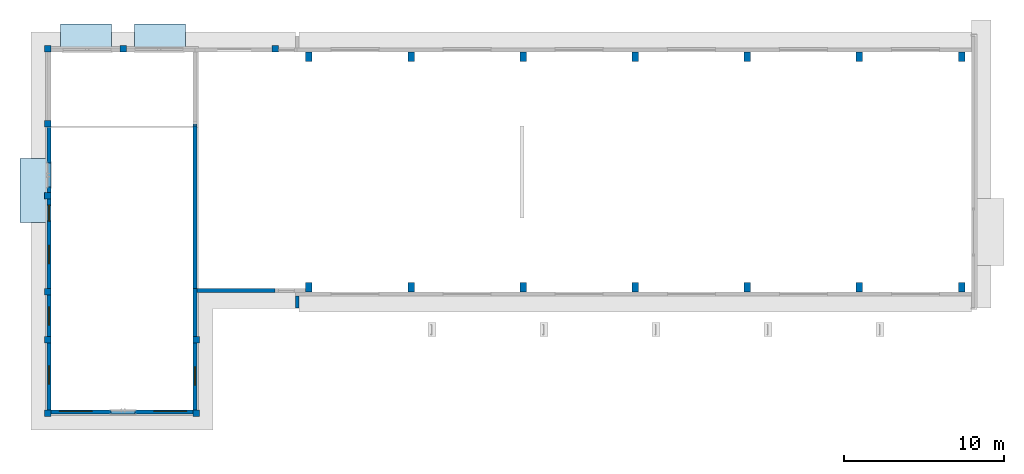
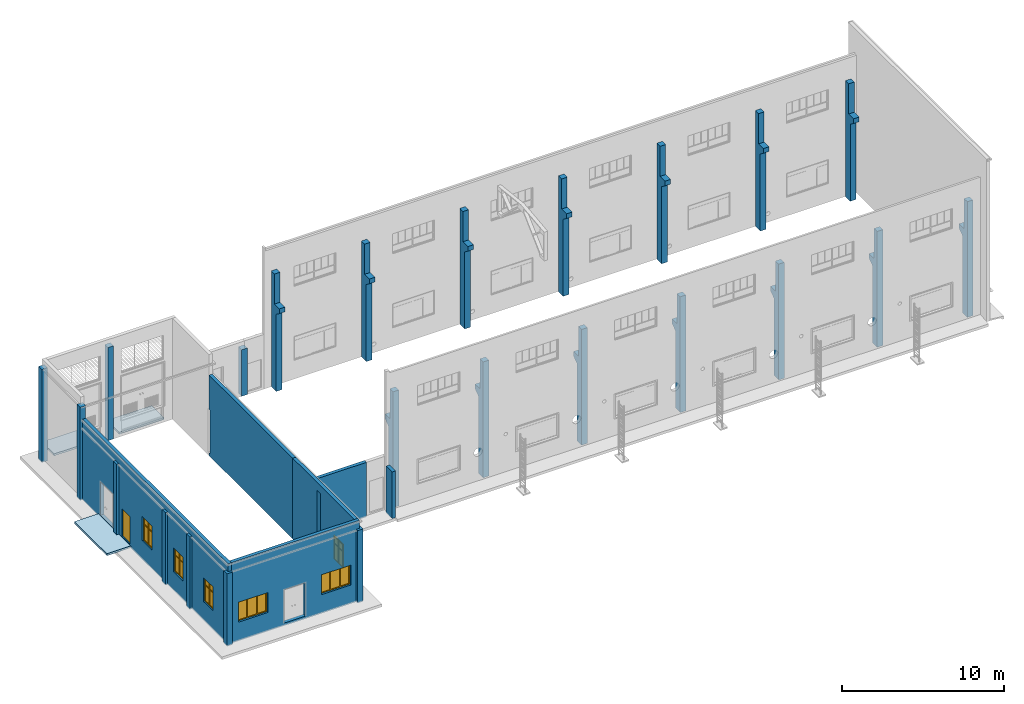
"""IFC2X3 building model written with IfcOpenShell, lengths in millimetres."""

from ifc_helpers import new_model, entity, si_unit, converted_unit, derived_unit, direction, frame, frame_2d, origin, origin_2d_with_axis, place, context, subcontext, project, spatial, polyline, rectangle, outline, extrude, clip, bounded_halfspace, faceted_brep, source, transform, mapped, material, material_list, layer, layer_set, layer_usage, type_object, type_shapes, element, fill, save


model = new_model("IFC2X3")

# Units and contexts
model_context = context("Model", 3, precision=0.01, world=origin(), true_north=direction((6.12303176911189e-17, 1.0)))
body_context = subcontext(model_context, "Body", "Model", "MODEL_VIEW")
ifc_project = project(units=[si_unit("LENGTHUNIT", "METRE", prefix="MILLI"), si_unit("AREAUNIT", "SQUARE_METRE"), si_unit("VOLUMEUNIT", "CUBIC_METRE"), converted_unit("PLANEANGLEUNIT", "DEGREE", entity("IfcRatioMeasure", 0.0174532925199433), si_unit("PLANEANGLEUNIT", "RADIAN"), dimensions=[0, 0, 0, 0, 0, 0, 0]), si_unit("MASSUNIT", "GRAM", prefix="KILO"), derived_unit("MASSDENSITYUNIT", [(si_unit("MASSUNIT", "GRAM", prefix="KILO"), 1), (si_unit("LENGTHUNIT", "METRE"), -3)]), si_unit("TIMEUNIT", "SECOND"), si_unit("FREQUENCYUNIT", "HERTZ"), si_unit("THERMODYNAMICTEMPERATUREUNIT", "DEGREE_CELSIUS"), derived_unit("THERMALTRANSMITTANCEUNIT", [(si_unit("MASSUNIT", "GRAM", prefix="KILO"), 1), (si_unit("THERMODYNAMICTEMPERATUREUNIT", "KELVIN"), -1), (si_unit("TIMEUNIT", "SECOND"), -3)]), derived_unit("VOLUMETRICFLOWRATEUNIT", [(si_unit("LENGTHUNIT", "METRE"), 3), (si_unit("TIMEUNIT", "SECOND"), -1)]), si_unit("ELECTRICCURRENTUNIT", "AMPERE"), si_unit("ELECTRICVOLTAGEUNIT", "VOLT"), si_unit("POWERUNIT", "WATT"), si_unit("FORCEUNIT", "NEWTON", prefix="KILO"), si_unit("ILLUMINANCEUNIT", "LUX"), si_unit("LUMINOUSFLUXUNIT", "LUMEN"), si_unit("LUMINOUSINTENSITYUNIT", "CANDELA"), derived_unit("USERDEFINED", [(si_unit("MASSUNIT", "GRAM", prefix="KILO"), -1), (si_unit("LENGTHUNIT", "METRE"), -2), (si_unit("TIMEUNIT", "SECOND"), 3), (si_unit("LUMINOUSFLUXUNIT", "LUMEN"), 1)]), derived_unit("LINEARVELOCITYUNIT", [(si_unit("LENGTHUNIT", "METRE"), 1), (si_unit("TIMEUNIT", "SECOND"), -1)]), si_unit("PRESSUREUNIT", "PASCAL"), derived_unit("USERDEFINED", [(si_unit("LENGTHUNIT", "METRE"), -2), (si_unit("MASSUNIT", "GRAM", prefix="KILO"), 1), (si_unit("TIMEUNIT", "SECOND"), -2)])], contexts=[model_context])

# Site, building, storey
site_placement = place(None, origin())
site = spatial("IfcSite", under=ifc_project, at=site_placement, Name="表面", CompositionType="ELEMENT")
building_placement = place(site_placement, origin())
building = spatial("IfcBuilding", under=site, at=building_placement, CompositionType="ELEMENT")
storey_1_placement = place(building_placement, frame((0.0, 0.0, -200.0)))
storey_1 = spatial("IfcBuildingStorey", under=building, at=storey_1_placement, Name="室外地坪", CompositionType="ELEMENT", Elevation=-200.0)

# Columns
ifc_material_1 = material(Name="混凝土 - 结构柱涂黑")
column_type_1 = type_object("IfcColumnType", Name="400 x 400mm", PredefinedType="COLUMN", material=ifc_material_1)
shared_shape_1 = source(origin(), body_context, "Body", "SweptSolid", [
    extrude(rectangle(XDim=400.0, YDim=400.0, at=origin_2d_with_axis()), frame((0.0, 0.0, -200.0), z_axis=(0.0, 0.0, 1.0), x_axis=(0.0, -1.0, 0.0)), (0.0, 0.0, 1.0), 5450.0),
])
type_shapes(column_type_1, [shared_shape_1])
for number, where in (
    (1, (-47728.7987814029, -6970.30259261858, 200.0)),
    (2, (-47728.7987814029, -2390.30259261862, 200.0)),
    (3, (-47728.7987814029, 609.697407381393, 200.0)),
    (4, (-47728.7987814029, 6609.69740738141, 200.0)),
):
    element("IfcColumn", number, at=place(storey_1_placement, frame(where)), inside=storey_1, type_object=column_type_1, material=ifc_material_1, Name="M_矩形-结构柱:400 x 400mm", ObjectType="400 x 400mm", context=body_context, shape_type="MappedRepresentation", body=[
        mapped(shared_shape_1, transform((0.0, 0.0, 0.0), scale=1.0)),
    ])
column_type_2 = type_object("IfcColumnType", Name="400 x 400mm", PredefinedType="COLUMN", material=ifc_material_1)
shared_shape_2 = source(origin(), body_context, "Body", "SweptSolid", [
    extrude(rectangle(XDim=400.0, YDim=400.0, at=origin_2d_with_axis()), frame((0.0, 0.0, -200.0), z_axis=(0.0, 0.0, 1.0), x_axis=(0.0, -1.0, 0.0)), (0.0, 0.0, 1.0), 6990.0),
])
type_shapes(column_type_2, [shared_shape_2])
for number, where in (
    (5, (-47728.7987814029, 11109.6974073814, 200.0)),
    (6, (-47728.7987814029, 15809.6974073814, 200.0)),
    (7, (-43028.798781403, 15809.6974073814, 200.0)),
):
    element("IfcColumn", number, at=place(storey_1_placement, frame(where)), inside=storey_1, type_object=column_type_2, material=ifc_material_1, Name="M_矩形-结构柱:400 x 400mm", ObjectType="400 x 400mm", context=body_context, shape_type="MappedRepresentation", body=[
        mapped(shared_shape_2, transform((0.0, 0.0, 0.0), scale=1.0)),
    ])
column_type_3 = type_object("IfcColumnType", Name="400 x 400mm", PredefinedType="COLUMN", material=ifc_material_1)
shared_shape_3 = source(origin(), body_context, "Body", "SweptSolid", [
    extrude(rectangle(XDim=400.0, YDim=400.0, at=origin_2d_with_axis()), frame((0.0, 0.0, -200.0), z_axis=(0.0, 0.0, 1.0), x_axis=(0.0, -1.0, 0.0)), (0.0, 0.0, 1.0), 5450.0),
])
type_shapes(column_type_3, [shared_shape_3])
for number, where, z_axis, x_axis in (
    (8, (-38448.798781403, -6970.30259261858, 200.0), (0.0, 0.0, 1.0), (-1.0, 0.0, 0.0)),
    (9, (-38448.798781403, -2390.30259261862, 200.0), (0.0, 0.0, 1.0), (-1.0, 0.0, 0.0)),
):
    element("IfcColumn", number, at=place(storey_1_placement, frame(where, z_axis=z_axis, x_axis=x_axis)), inside=storey_1, type_object=column_type_3, material=ifc_material_1, Name="M_矩形-结构柱:400 x 400mm", ObjectType="400 x 400mm", context=body_context, shape_type="MappedRepresentation", body=[
        mapped(shared_shape_3, transform((0.0, 0.0, 0.0), scale=1.0)),
    ])
column_type_4 = type_object("IfcColumnType", Name="400 x 400mm", PredefinedType="COLUMN", material=ifc_material_1)
shared_shape_4 = source(origin(), body_context, "Body", "SweptSolid", [
    extrude(rectangle(XDim=400.0, YDim=400.0, at=origin_2d_with_axis()), frame((0.0, 0.0, -200.0), z_axis=(0.0, 0.0, 1.0), x_axis=(0.0, -1.0, 0.0)), (0.0, 0.0, 1.0), 3500.0),
])
type_shapes(column_type_4, [shared_shape_4])
column_placement = place(storey_1_placement, frame((-33528.798781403, 15809.6974073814, 200.0), z_axis=(0.0, 0.0, 1.0), x_axis=(-1.0, 0.0, 0.0)))
element("IfcColumn", 10, at=column_placement, inside=storey_1, type_object=column_type_4, material=ifc_material_1, Name="M_矩形-结构柱:400 x 400mm", ObjectType="400 x 400mm", context=body_context, shape_type="MappedRepresentation", body=[
    mapped(shared_shape_4, transform((0.0, 0.0, 0.0), scale=1.0)),
])
column_type_5 = type_object("IfcColumnType", Name="牛腿柱", PredefinedType="COLUMN", material=ifc_material_1)
shared_shape_5 = source(origin(), body_context, "Body", "Brep", [
    faceted_brep([(-200.0, 300.0, 8500.0), (-200.0, 300.0, -200.0), (-200.0, -300.0, -200.0), (-200.0, -300.0, 5590.0), (-200.0, -700.0, 5890.0), (-200.0, -700.0, 6240.0), (-200.0, -100.0, 6240.0), (-200.0, -100.0, 8500.0), (200.0, -300.0, 5590.0), (200.0, -700.0, 5890.0), (200.0, -300.0, -200.0), (200.0, 300.0, -200.0), (200.0, 300.0, 8500.0), (200.0, -100.0, 8500.0), (200.0, -100.0, 6240.0), (200.0, -700.0, 6240.0)], [[[0, 1, 2, 3, 4, 5, 6, 7]], [[3, 8, 9, 4]], [[10, 8, 3, 2]], [[1, 11, 10, 2]], [[0, 12, 11, 1]], [[12, 13, 14, 15, 9, 8, 10, 11]], [[7, 13, 12, 0]], [[6, 14, 13, 7]], [[5, 15, 14, 6]], [[4, 9, 15, 5]]]),
])
type_shapes(column_type_5, [shared_shape_5])
for number, where, z_axis, x_axis in (
    (11, (-31428.798781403, 909.697407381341, 200.0), (0.0, 0.0, 1.0), (-1.0, 0.0, 0.0)),
    (12, (-25028.798781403, 909.69740738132, 200.0), (0.0, 0.0, 1.0), (-1.0, 0.0, 0.0)),
    (13, (-18028.798781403, 909.697407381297, 200.0), (0.0, 0.0, 1.0), (-1.0, 0.0, 0.0)),
    (14, (-11028.798781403, 909.697407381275, 200.0), (0.0, 0.0, 1.0), (-1.0, 0.0, 0.0)),
    (15, (-4028.79878140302, 909.697407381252, 200.0), (0.0, 0.0, 1.0), (-1.0, 0.0, 0.0)),
    (16, (2971.20121859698, 909.69740738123, 200.0), (0.0, 0.0, 1.0), (-1.0, 0.0, 0.0)),
    (17, (9372.20121859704, 909.697407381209, 200.0), (0.0, 0.0, 1.0), (-1.0, 0.0, 0.0)),
):
    element("IfcColumn", number, at=place(storey_1_placement, frame(where, z_axis=z_axis, x_axis=x_axis)), inside=storey_1, type_object=column_type_5, material=ifc_material_1, Name="牛腿柱:牛腿柱", ObjectType="牛腿柱", context=body_context, shape_type="MappedRepresentation", body=[
        mapped(shared_shape_5, transform((0.0, 0.0, 0.0), scale=1.0)),
    ])
column_type_6 = type_object("IfcColumnType", Name="牛腿柱", PredefinedType="COLUMN", material=ifc_material_1)
shared_shape_6 = source(origin(), body_context, "Body", "Brep", [
    faceted_brep([(-200.0, -300.0, 8500.0), (-200.0, 100.0, 8500.0), (-200.0, 100.0, 6240.0), (-200.0, 700.0, 6240.0), (-200.0, 700.0, 5890.0), (-200.0, 300.0, 5590.0), (-200.0, 300.0, -200.0), (-200.0, -300.0, -200.0), (200.0, 700.0, 5890.0), (200.0, 300.0, 5590.0), (200.0, 300.0, -200.0), (200.0, -300.0, -200.0), (200.0, -300.0, 8500.0), (200.0, 700.0, 6240.0), (200.0, 100.0, 6240.0), (200.0, 100.0, 8500.0)], [[[0, 1, 2, 3, 4, 5, 6, 7]], [[5, 4, 8, 9]], [[10, 6, 5, 9]], [[7, 6, 10, 11]], [[0, 7, 11, 12]], [[12, 11, 10, 9, 8, 13, 14, 15]], [[1, 0, 12, 15]], [[2, 1, 15, 14]], [[3, 2, 14, 13]], [[4, 3, 13, 8]]]),
])
type_shapes(column_type_6, [shared_shape_6])
for number, where, z_axis, x_axis in (
    (18, (-31428.798781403, 15309.6974073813, 200.0), (0.0, 0.0, 1.0), (-1.0, 0.0, 0.0)),
    (19, (-25028.798781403, 15309.6974073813, 200.0), (0.0, 0.0, 1.0), (-1.0, 0.0, 0.0)),
    (20, (-18028.798781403, 15309.6974073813, 200.0), (0.0, 0.0, 1.0), (-1.0, 0.0, 0.0)),
    (21, (-11028.7987814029, 15309.6974073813, 200.0), (0.0, 0.0, 1.0), (-1.0, 0.0, 0.0)),
    (22, (-4028.79878140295, 15309.6974073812, 200.0), (0.0, 0.0, 1.0), (-1.0, 0.0, 0.0)),
    (23, (2971.20121859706, 15309.6974073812, 200.0), (0.0, 0.0, 1.0), (-1.0, 0.0, 0.0)),
    (24, (9372.20121859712, 15309.6974073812, 200.0), (0.0, 0.0, 1.0), (-1.0, 0.0, 0.0)),
):
    element("IfcColumn", number, at=place(storey_1_placement, frame(where, z_axis=z_axis, x_axis=x_axis)), inside=storey_1, type_object=column_type_6, material=ifc_material_1, Name="牛腿柱:牛腿柱", ObjectType="牛腿柱", context=body_context, shape_type="MappedRepresentation", body=[
        mapped(shared_shape_6, transform((0.0, 0.0, 0.0), scale=1.0)),
    ])

# Slabs
ifc_material_2 = material(Name="C_保温-聚苯")
ifc_layer_1 = layer(ifc_material_2, 30.0)
ifc_material_3 = material(Name="C_混凝土 - 轻集料混凝土 - 密集")
ifc_layer_2 = layer(ifc_material_3, 120.0)
ifc_layer_set_1 = layer_set([ifc_layer_1, ifc_layer_2], Name="楼板:C 150 - 平台 30+120")
ifc_layer_usage_1 = layer_usage(ifc_layer_set_1, "AXIS3", "POSITIVE", 0.0)
slab_1_placement = place(storey_1_placement, origin())
element("IfcSlab", 25, at=slab_1_placement, inside=storey_1, material=ifc_layer_usage_1, Name="楼板:C 150 - 平台 30+120", ObjectType="楼板:C 150 - 平台 30+120", PredefinedType="FLOOR", context=body_context, shape_type="SweptSolid", body=[
    extrude(rectangle(XDim=1500.0, YDim=3179.99999999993, at=frame_2d((-1.08002495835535e-12, -4.32009983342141e-12), x_axis=(1.0, 0.0))), frame((-45338.7987814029, 16599.6974073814, 150.0), z_axis=(0.0, 0.0, -1.0), x_axis=(0.0, 1.0, 0.0)), (0.0, 0.0, 1.0), 150.0),
])
ifc_layer_usage_2 = layer_usage(ifc_layer_set_1, "AXIS3", "POSITIVE", 0.0)
slab_2_placement = place(storey_1_placement, origin())
element("IfcSlab", 26, at=slab_2_placement, inside=storey_1, material=ifc_layer_usage_2, Name="楼板:C 150 - 平台 30+120", ObjectType="楼板:C 150 - 平台 30+120", PredefinedType="FLOOR", context=body_context, shape_type="SweptSolid", body=[
    extrude(rectangle(XDim=1500.0, YDim=3179.99999999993, at=frame_2d((-1.08002495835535e-12, 4.32009983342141e-12), x_axis=(1.0, 0.0))), frame((-40718.798781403, 16599.6974073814, 150.0), z_axis=(0.0, 0.0, -1.0), x_axis=(0.0, 1.0, 0.0)), (0.0, 0.0, 1.0), 150.0),
])
ifc_layer_usage_3 = layer_usage(ifc_layer_set_1, "AXIS3", "POSITIVE", 0.0)
slab_3_placement = place(storey_1_placement, origin())
element("IfcSlab", 27, at=slab_3_placement, inside=storey_1, material=ifc_layer_usage_3, Name="楼板:C 150 - 平台 30+120", ObjectType="楼板:C 150 - 平台 30+120", PredefinedType="FLOOR", context=body_context, shape_type="SweptSolid", body=[
    extrude(rectangle(XDim=3991.39175496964, YDim=1700.0, at=frame_2d((0.0, -4.32009983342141e-12), x_axis=(1.0, 0.0))), frame((-48618.798781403, 6945.45347654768, 150.0), z_axis=(0.0, 0.0, -1.0), x_axis=(0.0, 1.0, 0.0)), (0.0, 0.0, 1.0), 150.0),
])

# Wall, openings
ifc_material_4 = material(Name="砖石建筑 - 砖")
ifc_layer_3 = layer(ifc_material_4, 240.0)
ifc_layer_set_2 = layer_set([ifc_layer_3], Name="基本墙:外砖墙240")
ifc_layer_usage_4 = layer_usage(ifc_layer_set_2, "AXIS2", "NEGATIVE", 120.0)
wall_type_1 = type_object("IfcWallType", Name="基本墙:外砖墙240", PredefinedType="STANDARD", material=ifc_layer_set_2)
wall_1_placement = place(storey_1_placement, frame((-47648.7987814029, -7010.30259261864, 0.0), z_axis=(0.0, 0.0, 1.0), x_axis=(0.0, 1.0, 0.0)))
wall_1 = element("IfcWallStandardCase", 28, at=wall_1_placement, inside=storey_1, type_object=wall_type_1, material=ifc_layer_usage_4, Name="基本墙:外砖墙240", ObjectType="基本墙:外砖墙240", context=body_context, shape_type="SweptSolid", body=[
    extrude(rectangle(XDim=18120.0, YDim=239.999999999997, at=frame_2d((9060.0, 9.59232693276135e-13), x_axis=(-1.0, 0.0))), origin(), (0.0, 0.0, 1.0), 6050.0),
])
opening_1_placement = place(wall_1_placement, frame((12050.0, -120.0, 200.0)))
opening_1 = element("IfcOpeningElement", 29, at=opening_1_placement, cuts=wall_1, Name="单开门:M5:1", ObjectType="Opening", context=body_context, shape_type="SweptSolid", body=[
    extrude(rectangle(XDim=2100.0, YDim=1000.0, at=frame_2d((1050.0, 500.0), x_axis=(1.0, 0.0))), frame((0.0, 0.0, 0.0), z_axis=(0.0, 1.0, 0.0), x_axis=(0.0, 0.0, 1.0)), (0.0, 0.0, 1.0), 240.0),
])
opening_2_placement = place(wall_1_placement, frame((15670.0, 120.0, 200.0)))
element("IfcOpeningElement", 30, at=opening_2_placement, cuts=wall_1, Name="双扇开平门M-4:M-4:1", ObjectType="Opening", context=body_context, shape_type="SweptSolid", body=[
    extrude(rectangle(XDim=2499.99999999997, YDim=1500.0, at=frame_2d((1249.99999999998, 750.0), x_axis=(1.0, 0.0))), frame((0.0, 0.0, 0.0), z_axis=(0.0, -1.0, 0.0), x_axis=(0.0, 0.0, 1.0)), (0.0, 0.0, 1.0), 240.0),
])
opening_3_placement = place(wall_1_placement, frame((9349.99570662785, -120.0, 1400.0)))
opening_3 = element("IfcOpeningElement", 31, at=opening_3_placement, cuts=wall_1, Name="推拉窗(c-2):推拉窗(c-2):1", ObjectType="Opening", context=body_context, shape_type="SweptSolid", body=[
    extrude(rectangle(XDim=1800.0, YDim=1200.0, at=frame_2d((900.000000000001, 600.0), x_axis=(1.0, 0.0))), frame((0.0, 0.0, 0.0), z_axis=(0.0, 1.0, 0.0), x_axis=(0.0, 0.0, 1.0)), (0.0, 0.0, 1.0), 240.0),
])
opening_4_placement = place(wall_1_placement, frame((5519.99862225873, -120.0, 1400.0)))
opening_4 = element("IfcOpeningElement", 32, at=opening_4_placement, cuts=wall_1, Name="推拉窗(c-2):推拉窗(c-2):1", ObjectType="Opening", context=body_context, shape_type="SweptSolid", body=[
    extrude(rectangle(XDim=1800.0, YDim=1200.0, at=frame_2d((900.000000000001, 600.0), x_axis=(1.0, 0.0))), frame((0.0, 0.0, 0.0), z_axis=(0.0, 1.0, 0.0), x_axis=(0.0, 0.0, 1.0)), (0.0, 0.0, 1.0), 240.0),
])
opening_5_placement = place(wall_1_placement, frame((1829.99570662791, -120.0, 1400.0)))
opening_5 = element("IfcOpeningElement", 33, at=opening_5_placement, cuts=wall_1, Name="推拉窗(c-2):推拉窗(c-2):1", ObjectType="Opening", context=body_context, shape_type="SweptSolid", body=[
    extrude(rectangle(XDim=1800.0, YDim=1200.0, at=frame_2d((900.000000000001, 600.0), x_axis=(1.0, 0.0))), frame((0.0, 0.0, 0.0), z_axis=(0.0, 1.0, 0.0), x_axis=(0.0, 0.0, 1.0)), (0.0, 0.0, 1.0), 240.0),
])

# Storey
storey_2_placement = place(building_placement, origin())
storey_2 = spatial("IfcBuildingStorey", under=building, at=storey_2_placement, Name="±0.000", CompositionType="ELEMENT", Elevation=0.0)

# Door
ifc_material_5 = material(Name="塑钢")
ifc_material_6 = material(Name="木质 - 木材")
ifc_material_list_1 = material_list([ifc_material_5, ifc_material_6])
ifc_material_list_2 = material_list([ifc_material_5, ifc_material_6])
door_style = type_object("IfcDoorStyle", Name="M5", ConstructionType="NOTDEFINED", OperationType="SINGLE_SWING_RIGHT", ParameterTakesPrecedence=False, Sizeable=False, material=ifc_material_list_2)
shared_shape_7 = source(origin(), body_context, "Body", "SweptSolid", [
    extrude(outline(polyline([(-1057.5, -500.0), (1042.5, -500.0), (1042.5, -470.0), (-1027.5, -470.0), (-1027.5, 470.0), (1042.5, 470.0), (1042.5, 500.0), (-1057.5, 500.0), (-1057.5, -500.0)])), frame((500.0, 145.0, 1042.5), z_axis=(0.0, -1.0, 0.0), x_axis=(0.0, 0.0, -1.0)), (0.0, 0.0, 1.0), 50.0),
    extrude(rectangle(XDim=940.0, YDim=30.0, at=origin_2d_with_axis()), frame((500.0, 120.0, 0.0)), (0.0, 0.0, 1.0), 2070.0),
])
type_shapes(door_style, [shared_shape_7])
door_placement = place(opening_1_placement, origin())
door = element("IfcDoor", 34, at=door_placement, inside=storey_2, type_object=door_style, material=ifc_material_list_1, Name="单开门:M5", ObjectType="M5", OverallHeight=2100.0, OverallWidth=1000.0, context=body_context, shape_type="MappedRepresentation", body=[
    mapped(shared_shape_7, transform((0.0, 0.0, 0.0), scale=1.0)),
])

fill(opening_1, door)

# Window
ifc_material_7 = material(Name="玻璃")
ifc_material_8 = material(Name="窗框材质")
ifc_material_list_3 = material_list([ifc_material_7, ifc_material_8])
ifc_material_list_4 = material_list([ifc_material_7, ifc_material_8])
window_style_1 = type_object("IfcWindowStyle", Name="推拉窗(c-2)", ConstructionType="NOTDEFINED", OperationType="NOTDEFINED", ParameterTakesPrecedence=False, Sizeable=False, material=ifc_material_list_4)
shared_shape_8 = source(origin(), body_context, "Body", "SweptSolid", [
    extrude(rectangle(XDim=1080.0, YDim=6.0, at=origin_2d_with_axis()), frame((600.0, 120.0, 60.0)), (0.0, 0.0, 1.0), 1680.0),
    extrude(rectangle(XDim=60.0, YDim=60.0, at=origin_2d_with_axis()), frame((600.0, 120.0, 60.0)), (0.0, 0.0, 1.0), 1680.0),
    extrude(rectangle(XDim=1080.0, YDim=60.0, at=origin_2d_with_axis()), frame((600.0, 120.0, 1210.0)), (0.0, 0.0, 1.0), 60.0000000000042),
    extrude(outline(polyline([(-600.0, -900.0), (600.0, -900.0), (600.0, 900.0), (-600.0, 900.0), (-600.0, -900.0)]), holes=[polyline([(-540.0, -840.0), (-540.0, 840.0), (540.0, 840.0), (540.0, -840.0), (-540.0, -840.0)])]), frame((600.0, 150.0, 900.0), z_axis=(0.0, -1.0, 0.0), x_axis=(-1.0, 0.0, 0.0)), (0.0, 0.0, 1.0), 60.0),
])
type_shapes(window_style_1, [shared_shape_8])
window_1_placement = place(opening_3_placement, origin())
window_1 = element("IfcWindow", 35, at=window_1_placement, inside=storey_2, type_object=window_style_1, material=ifc_material_list_3, Name="推拉窗(c-2):推拉窗(c-2)", ObjectType="推拉窗(c-2)", OverallHeight=1800.0, OverallWidth=1200.0, context=body_context, shape_type="MappedRepresentation", body=[
    mapped(shared_shape_8, transform((0.0, 0.0, 0.0), scale=1.0)),
])

fill(opening_3, window_1)

ifc_material_list_5 = material_list([ifc_material_7, ifc_material_8])
ifc_material_list_6 = material_list([ifc_material_7, ifc_material_8])
window_style_2 = type_object("IfcWindowStyle", Name="推拉窗(c-2)", ConstructionType="NOTDEFINED", OperationType="NOTDEFINED", ParameterTakesPrecedence=False, Sizeable=False, material=ifc_material_list_6)
shared_shape_9 = source(origin(), body_context, "Body", "SweptSolid", [
    extrude(rectangle(XDim=6.0, YDim=1080.0, at=origin_2d_with_axis()), frame((600.0, 120.0, 60.0), z_axis=(0.0, 0.0, 1.0), x_axis=(0.0, 1.0, 0.0)), (0.0, 0.0, 1.0), 1680.0),
    extrude(rectangle(XDim=60.0, YDim=60.0, at=origin_2d_with_axis()), frame((600.0, 120.0, 60.0), z_axis=(0.0, 0.0, 1.0), x_axis=(0.0, 1.0, 0.0)), (0.0, 0.0, 1.0), 1680.0),
    extrude(rectangle(XDim=60.0, YDim=1080.0, at=origin_2d_with_axis()), frame((600.0, 120.0, 1210.0), z_axis=(0.0, 0.0, 1.0), x_axis=(0.0, 1.0, 0.0)), (0.0, 0.0, 1.0), 60.0000000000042),
    extrude(outline(polyline([(-600.0, -900.0), (600.0, -900.0), (600.0, 900.0), (-600.0, 900.0), (-600.0, -900.0)]), holes=[polyline([(-540.0, -840.0), (-540.0, 840.0), (540.0, 840.0), (540.0, -840.0), (-540.0, -840.0)])]), frame((600.0, 90.0, 900.0), z_axis=(0.0, 1.0, 0.0), x_axis=(1.0, 0.0, 0.0)), (0.0, 0.0, 1.0), 60.0),
])
type_shapes(window_style_2, [shared_shape_9])
window_2_placement = place(opening_4_placement, origin())
window_2 = element("IfcWindow", 36, at=window_2_placement, inside=storey_2, type_object=window_style_2, material=ifc_material_list_5, Name="推拉窗(c-2):推拉窗(c-2)", ObjectType="推拉窗(c-2)", OverallHeight=1800.0, OverallWidth=1200.0, context=body_context, shape_type="MappedRepresentation", body=[
    mapped(shared_shape_9, transform((0.0, 0.0, 0.0), scale=1.0)),
])

fill(opening_4, window_2)

ifc_material_list_7 = material_list([ifc_material_7, ifc_material_8])
window_3_placement = place(opening_5_placement, origin())
window_3 = element("IfcWindow", 37, at=window_3_placement, inside=storey_2, type_object=window_style_2, material=ifc_material_list_7, Name="推拉窗(c-2):推拉窗(c-2)", ObjectType="推拉窗(c-2)", OverallHeight=1800.0, OverallWidth=1200.0, context=body_context, shape_type="MappedRepresentation", body=[
    mapped(shared_shape_9, transform((0.0, 0.0, 0.0), scale=1.0)),
])

fill(opening_5, window_3)

# Wall, openings, windows
ifc_layer_usage_5 = layer_usage(ifc_layer_set_2, "AXIS2", "NEGATIVE", 120.0)
wall_2_placement = place(storey_1_placement, frame((-47528.7987814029, -6890.30259261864, 0.0)))
wall_2 = element("IfcWallStandardCase", 38, at=wall_2_placement, inside=storey_1, type_object=wall_type_1, material=ifc_layer_usage_5, Name="基本墙:外砖墙240", ObjectType="基本墙:外砖墙240", context=body_context, shape_type="SweptSolid", body=[
    extrude(rectangle(XDim=9119.99999999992, YDim=240.0, at=frame_2d((4559.99999999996, 0.0), x_axis=(-1.0, 0.0))), origin(), (0.0, 0.0, 1.0), 6050.0),
])
opening_6_placement = place(wall_2_placement, frame((6399.99793142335, -120.0, 1400.0)))
opening_6 = element("IfcOpeningElement", 39, at=opening_6_placement, cuts=wall_2, Name="平开窗（c-3）:平开窗（c-3）:1", ObjectType="Opening", context=body_context, shape_type="SweptSolid", body=[
    extrude(rectangle(XDim=1500.0, YDim=2100.0, at=frame_2d((750.0, 1050.0), x_axis=(1.0, 0.0))), frame((0.0, 0.0, 0.0), z_axis=(0.0, 1.0, 0.0), x_axis=(0.0, 0.0, 1.0)), (0.0, 0.0, 1.0), 240.0),
])
opening_7_placement = place(wall_2_placement, frame((499.996991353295, -120.0, 1400.0)))
opening_7 = element("IfcOpeningElement", 40, at=opening_7_placement, cuts=wall_2, Name="平开窗（c-3）:平开窗（c-3）:1", ObjectType="Opening", context=body_context, shape_type="SweptSolid", body=[
    extrude(rectangle(XDim=1500.0, YDim=2100.0, at=frame_2d((750.0, 1050.0), x_axis=(1.0, 0.0))), frame((0.0, 0.0, 0.0), z_axis=(0.0, 1.0, 0.0), x_axis=(0.0, 0.0, 1.0)), (0.0, 0.0, 1.0), 240.0),
])
opening_8_placement = place(wall_2_placement, frame((5249.99793142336, 120.0, 200.0)))
element("IfcOpeningElement", 41, at=opening_8_placement, cuts=wall_2, Name="双扇开平门M-4:M-4:1", ObjectType="Opening", context=body_context, shape_type="SweptSolid", body=[
    extrude(rectangle(XDim=2499.99999999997, YDim=1500.0, at=frame_2d((1249.99999999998, 750.000000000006), x_axis=(1.0, 0.0))), frame((0.0, 0.0, 0.0), z_axis=(0.0, -1.0, 0.0), x_axis=(0.0, 0.0, 1.0)), (0.0, 0.0, 1.0), 240.0),
])
ifc_material_9 = material(Name="窗框材质量")
ifc_material_10 = material(Name="金属－铝")
ifc_material_list_8 = material_list([ifc_material_9, ifc_material_7, ifc_material_10])
ifc_material_list_9 = material_list([ifc_material_9, ifc_material_7, ifc_material_10])
window_style_3 = type_object("IfcWindowStyle", Name="平开窗（c-3）", ConstructionType="NOTDEFINED", OperationType="NOTDEFINED", ParameterTakesPrecedence=False, Sizeable=False, material=ifc_material_list_9)
shared_shape_10 = source(origin(), body_context, "Body", "SweptSolid", [
    extrude(outline(polyline([(-1050.0, -750.0), (1050.0, -750.0), (1050.0, 750.0), (-1050.0, 750.0), (-1050.0, -750.0)]), holes=[polyline([(-990.0, -690.0), (-990.0, 690.0), (990.0, 690.0), (990.0, -690.0), (-990.0, -690.0)])]), frame((1050.0, 195.0, 750.0), z_axis=(0.0, -1.0, 0.0), x_axis=(-1.0, 0.0, 0.0)), (0.0, 0.0, 1.0), 59.9999999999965),
    extrude(rectangle(XDim=1980.0, YDim=6.00000000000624, at=frame_2d((0.0, -4.21884749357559e-15), x_axis=(1.0, 0.0))), frame((1050.0, 165.0, 60.0)), (0.0, 0.0, 1.0), 1380.0),
    extrude(rectangle(XDim=60.0, YDim=59.9999999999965, at=frame_2d((3.37507799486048e-14, 3.5527136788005e-15), x_axis=(1.0, 0.0))), frame((1400.0, 165.0, 60.0)), (0.0, 0.0, 1.0), 1380.0),
    extrude(rectangle(XDim=60.0, YDim=59.9999999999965, at=frame_2d((3.37507799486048e-14, 3.5527136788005e-15), x_axis=(1.0, 0.0))), frame((700.0, 165.0, 60.0)), (0.0, 0.0, 1.0), 1380.0),
])
type_shapes(window_style_3, [shared_shape_10])
window_4_placement = place(opening_6_placement, origin())
window_4 = element("IfcWindow", 42, at=window_4_placement, inside=storey_2, type_object=window_style_3, material=ifc_material_list_8, Name="平开窗（c-3）:平开窗（c-3）", ObjectType="平开窗（c-3）", OverallHeight=1500.0, OverallWidth=2100.0, context=body_context, shape_type="MappedRepresentation", body=[
    mapped(shared_shape_10, transform((0.0, 0.0, 0.0), scale=1.0)),
])
fill(opening_6, window_4)
ifc_material_list_10 = material_list([ifc_material_9, ifc_material_7, ifc_material_10])
window_5_placement = place(opening_7_placement, origin())
window_5 = element("IfcWindow", 43, at=window_5_placement, inside=storey_2, type_object=window_style_3, material=ifc_material_list_10, Name="平开窗（c-3）:平开窗（c-3）", ObjectType="平开窗（c-3）", OverallHeight=1500.0, OverallWidth=2100.0, context=body_context, shape_type="MappedRepresentation", body=[
    mapped(shared_shape_10, transform((0.0, 0.0, 0.0), scale=1.0)),
])
fill(opening_7, window_5)

# Wall, opening, window
ifc_layer_usage_6 = layer_usage(ifc_layer_set_2, "AXIS2", "NEGATIVE", 120.0)
wall_3_placement = place(storey_1_placement, frame((-38528.798781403, -6770.30259261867, 0.0), z_axis=(0.0, 0.0, 1.0), x_axis=(0.0, 1.0, 0.0)))
wall_3 = element("IfcWallStandardCase", 44, at=wall_3_placement, inside=storey_1, type_object=wall_type_1, material=ifc_layer_usage_6, Name="基本墙:外砖墙240", ObjectType="基本墙:外砖墙240", context=body_context, shape_type="SweptSolid", body=[
    extrude(rectangle(XDim=7580.00000000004, YDim=239.999999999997, at=frame_2d((3790.00000000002, 7.105427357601e-14), x_axis=(-1.0, 0.0))), origin(), (0.0, 0.0, 1.0), 6050.0),
])
opening_9_placement = place(wall_3_placement, frame((2730.0, 120.0, 1400.0)))
opening_9 = element("IfcOpeningElement", 45, at=opening_9_placement, cuts=wall_3, Name="推拉窗(c-2):推拉窗(c-2):1", ObjectType="Opening", context=body_context, shape_type="SweptSolid", body=[
    extrude(rectangle(XDim=1800.0, YDim=1200.0, at=frame_2d((900.000000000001, 600.0), x_axis=(1.0, 0.0))), frame((0.0, 0.0, 0.0), z_axis=(0.0, -1.0, 0.0), x_axis=(0.0, 0.0, 1.0)), (0.0, 0.0, 1.0), 240.0),
])
ifc_material_list_11 = material_list([ifc_material_7, ifc_material_8])
window_6_placement = place(opening_9_placement, frame((0.0, 0.0, 0.0), z_axis=(0.0, 0.0, 1.0), x_axis=(-1.0, 0.0, 0.0)))
window_6 = element("IfcWindow", 46, at=window_6_placement, inside=storey_2, type_object=window_style_2, material=ifc_material_list_11, Name="推拉窗(c-2):推拉窗(c-2)", ObjectType="推拉窗(c-2)", OverallHeight=1800.0, OverallWidth=1200.0, context=body_context, shape_type="MappedRepresentation", body=[
    mapped(shared_shape_9, transform((0.0, 0.0, 0.0), scale=1.0)),
])
fill(opening_9, window_6)

# Walls
ifc_layer_4 = layer(ifc_material_4, 240.0)
ifc_layer_set_3 = layer_set([ifc_layer_4], Name="基本墙:砖墙240mm")
ifc_layer_usage_7 = layer_usage(ifc_layer_set_3, "AXIS2", "POSITIVE", -120.0)
wall_type_2 = type_object("IfcWallType", Name="基本墙:砖墙240mm", PredefinedType="STANDARD", material=ifc_layer_set_3)
wall_4_placement = place(storey_1_placement, frame((-38408.798781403, 689.697407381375, 0.0)))
element("IfcWallStandardCase", 47, at=wall_4_placement, inside=storey_1, type_object=wall_type_2, material=ifc_layer_usage_7, Name="基本墙:砖墙240mm", ObjectType="基本墙:砖墙240mm", context=body_context, shape_type="SweptSolid", body=[
    extrude(rectangle(XDim=4880.00000000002, YDim=240.0, at=frame_2d((2440.00000000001, 6.3948846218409e-14), x_axis=(-1.0, 0.0))), origin(), (0.0, 0.0, 1.0), 4100.0),
])
ifc_layer_usage_8 = layer_usage(ifc_layer_set_3, "AXIS2", "POSITIVE", -120.0)
wall_5_placement = place(storey_1_placement, frame((-38528.798781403, 689.697407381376, 0.0), z_axis=(0.0, 0.0, 1.0), x_axis=(0.0, 1.0, 0.0)))
element("IfcWallStandardCase", 48, at=wall_5_placement, inside=storey_1, type_object=wall_type_2, material=ifc_layer_usage_8, Name="基本墙:砖墙240mm", ObjectType="基本墙:砖墙240mm", context=body_context, shape_type="Clipping", body=[
    clip(extrude(rectangle(XDim=10300.0, YDim=240.000000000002, at=frame_2d((5269.99999999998, -1.72661884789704e-12), x_axis=(-1.0, 0.0))), origin(), (0.0, 0.0, 1.0), 6050.0), bounded_halfspace(frame((10300.0, 120.0, 3500.0), z_axis=(-1.0, 0.0, 0.0), x_axis=(0.0, -1.0, 0.0)), True, frame((10300.0, 120.0, 3500.0), z_axis=(-1.0, 0.0, 0.0), x_axis=(0.0, -1.0, 0.0)), polyline([(0.0, 0.0), (0.0, -3300.0), (240.0, -3300.0), (240.0, 0.0), (0.0, 0.0)]))),
])
ifc_layer_usage_9 = layer_usage(ifc_layer_set_3, "AXIS2", "NEGATIVE", 120.0)
wall_6_placement = place(storey_1_placement, frame((-32148.7987814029, -380.302592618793, 0.0), z_axis=(0.0, 0.0, 1.0), x_axis=(0.0, 1.0, 0.0)))
element("IfcWallStandardCase", 49, at=wall_6_placement, inside=storey_1, type_object=wall_type_2, material=ifc_layer_usage_9, Name="基本墙:砖墙240mm", ObjectType="基本墙:砖墙240mm", context=body_context, shape_type="SweptSolid", body=[
    extrude(rectangle(XDim=240.000000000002, YDim=750.000000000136, at=frame_2d((-2.16715534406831e-12, 1.70530256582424e-13), x_axis=(1.0, 0.0))), frame((375.0, 0.0, 0.0), z_axis=(0.0, 0.0, 1.0), x_axis=(0.0, 1.0, 0.0)), (0.0, 0.0, 1.0), 3500.0),
])

save(model, "model.ifc")
